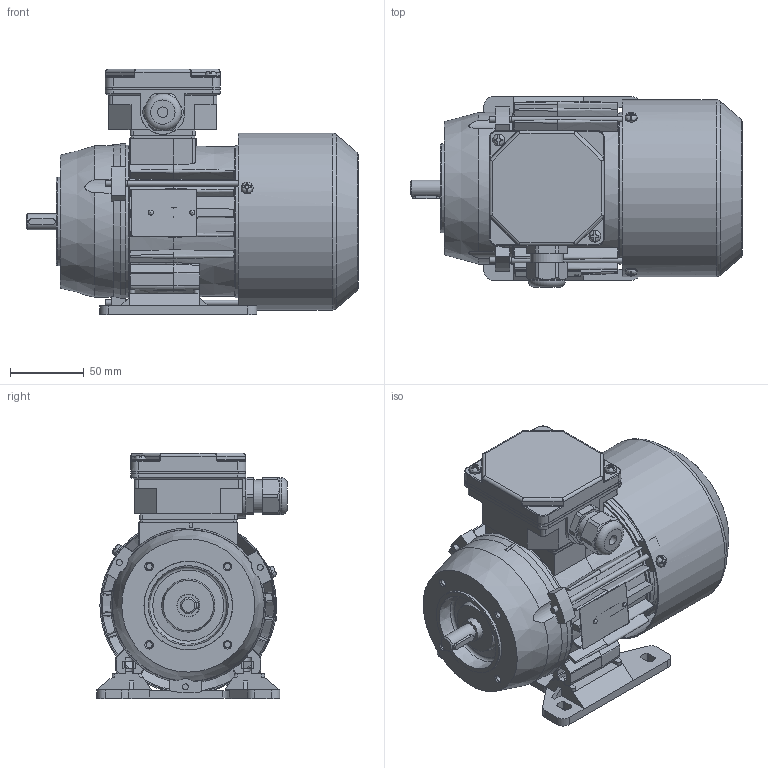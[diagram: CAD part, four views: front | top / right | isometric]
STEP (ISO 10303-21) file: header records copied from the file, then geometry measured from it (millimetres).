
FILE_DESCRIPTION( ( 'Unknown' ), '1' );
FILE_NAME( 'G:/Poczta Tk-1/STP/w.m.63/Sh63/SLh63-C2.stp', 'Unknown', ( 'K. Szlosek' ), ( 'BESEL S.A.' ), 'PSStep 17.0.49', 'Unknown', ' ' );
FILE_SCHEMA( ( 'AUTOMOTIVE_DESIGN { 1 0 10303 214 1 1 1 1 }' ) );
Length unit declared in the file: millimetre
Products named in the file (30): Assem1; K3-9973 Kadłub ze stojanem wykończonym Sh63-C; K3-5320 Tarcza łożyskowa P Sg63; K4-2320 Uszczelka nr 1 Sh71,80; Wpust A4x4x18; K3-5321 osłona przewietrznika Sg63; K4-2820 Uszczelka nr 2 Sh71,80; K2-0860 Pokrywka skrzynki zaciskowej; Wkręt samogwintujący M4x16; K2-1769 Przewietrznik Sg63; Wkręt samogwintujący M4x8; Nitokołek A 2x6; K3-9974 wał Sh63-C standard; K2-0859 Podstawa skrzynki 6-cio zaciskowej; Łożysko 6202; Dławnica M20x1,5; Śruba ściągająca E_M4x100; Tabliczka znamionowa 32x44; K1-1112 Tarcza kołnierzowa B14_2 SKg63-..2; K1-1107 Łapa Sg63-.. w. robocza
Assembly tree (46 placements, depth 2):
  Assem1
    K3-9973 Kadłub ze stojanem wykończonym Sh63-C
    K3-5320 Tarcza łożyskowa P Sg63
    K4-2320 Uszczelka nr 1 Sh71,80
    Wpust A4x4x18
    K3-5321 osłona przewietrznika Sg63
    K4-2820 Uszczelka nr 2 Sh71,80
    K2-0860 Pokrywka skrzynki zaciskowej
    Wkręt samogwintujący M4x16  x2
    K2-1769 Przewietrznik Sg63
    Wkręt samogwintujący M4x8  x3
    Nitokołek A 2x6  x2
    K3-9974 wał Sh63-C standard
    K2-0859 Podstawa skrzynki 6-cio zaciskowej
    Łożysko 6202  x2
    Łożysko 6202  x2
    Łożysko 6202  x2
    Łożysko 6202  x2
    Łożysko 6202  x2
    Łożysko 6202  x2
    Łożysko 6202  x2
    Łożysko 6202  x2
    Łożysko 6202  x2
    Łożysko 6202  x2
    Łożysko 6202  x2
    Dławnica M20x1,5
    Śruba ściągająca E_M4x100  x3
    Tabliczka znamionowa 32x44
    K1-1112 Tarcza kołnierzowa B14_2 SKg63-..2
    K1-1107 Łapa Sg63-.. w. robocza
Bounding box: 224.5 x 129 x 166 mm (x, y, z)
Volume: 574654.9 mm3; surface area: 373579.6 mm2
Topology: 46 solids, 64 shells, 1992 faces, 5477 edges, 3554 vertices
Faces by surface type: plane 1011, cylinder 588, cone 142, torus 116, bspline 96, sphere 39
Full cylindrical faces by diameter (mm): 2 x2, 2.4 x2, 3.242 x3, 3.7 x10, 4 x8, 4.134 x4, 4.5 x4, 4.8 x4, 5 x4, 5.8 x4, 7 x4, 8 x6, 11 x1, 12.9 x1, 13.1 x1, 13.5 x1, 15 x4, 15.4 x2, 18.376 x1, 18.38 x1, 19 x2, 19.5 x1, 20 x2, 20.1 x1, 21.52 x4, 22.3 x1, 25 x1, 28 x2, 28.48 x4, 31 x2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
Entity records: 86520 total; most frequent: CARTESIAN_POINT 26339, ORIENTED_EDGE 9514, DIRECTION 9130, EDGE_CURVE 4757, AXIS2_PLACEMENT_3D 3369, VERTEX_POINT 3233, LINE 2392, VECTOR 2392
